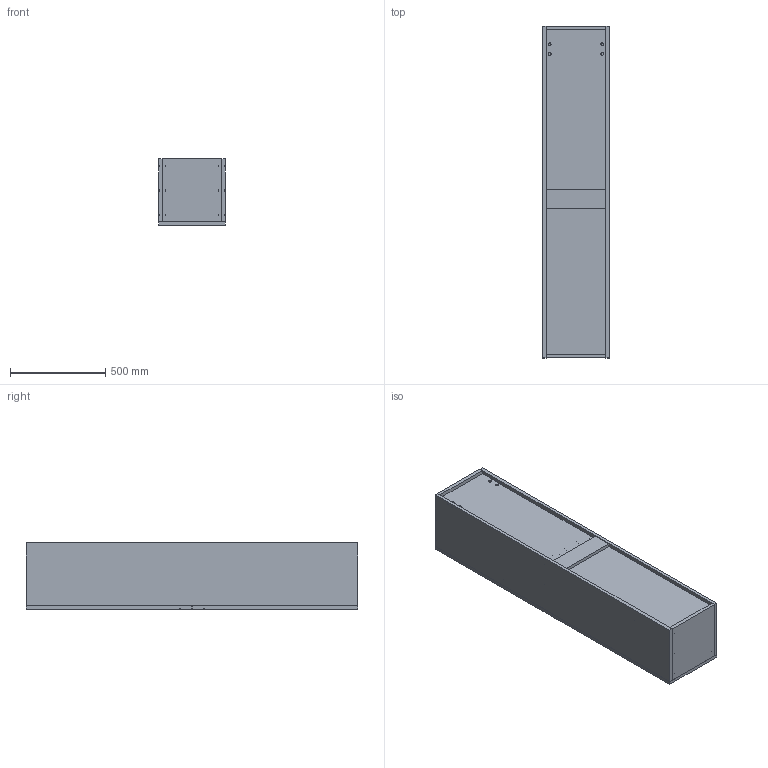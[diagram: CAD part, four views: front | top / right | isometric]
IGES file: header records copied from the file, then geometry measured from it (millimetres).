
Global section: file name: Meta Boy Dolabı 3D,; native system: Autodesk Inventor 2024; preprocessor: unknown; author: pc19; date: 20240612.142206; units: millimetre
Bounding box: 350 x 1740 x 348 mm (x, y, z)
Volume: 43188382.2 mm3; surface area: 6312967.1 mm2
Topology: 17 solids, 17 shells, 474 faces, 1198 edges, 909 vertices
Faces by surface type: bspline 474
